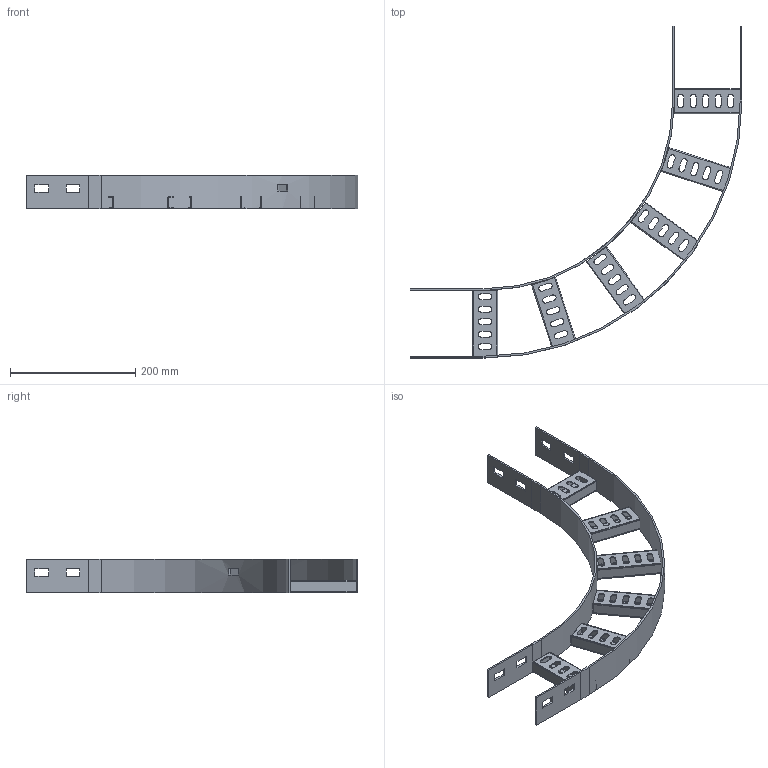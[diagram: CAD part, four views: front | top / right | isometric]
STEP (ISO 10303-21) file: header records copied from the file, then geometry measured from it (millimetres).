
FILE_DESCRIPTION(/* description */ ('','CAx-IF Rec.Pracs.---Representation and Presentation of Product Manufacturing Information (PMI)---4.0---2014-10-13'),/* implementation_level */ '2;1');
FILE_NAME(/* name */ 'Eurostrut_EFB60-100-90-300_Bend 90 for Cable Ladder ECL.step',/* time_stamp */ '2026-09-03T08:36:38+02:00',/* author */ (''),/* organization */ (''),/* preprocessor_version */ 'ST-DEVELOPER v20.1',/* originating_system */ 'Autodesk Revit 2027 27.2.0.39',/* authorisation */ '');
FILE_SCHEMA (('AP242_MANAGED_MODEL_BASED_3D_ENGINEERING_MIM_LF { 1 0 10303 442 2 1 4 }'));
Length unit declared in the file: millimetre
Products named in the file (6): TopLevelAssembly; Sweep; Extrusion; Extrusion_1; Eurostrut_Cable Ladder_Rung_Horizontal Bend_With slots; Eurostrut_Cable Ladder_Accessory End_54-94-142
Assembly tree (8 placements, depth 2):
  TopLevelAssembly
    Sweep
    Extrusion
    Extrusion_1
    Eurostrut_Cable Ladder_Rung_Horizontal Bend_With slots
    Eurostrut_Cable Ladder_Accessory End_54-94-142  x4
Bounding box: 531 x 531 x 54 mm (x, y, z)
Volume: 328494.7 mm3; surface area: 291540.6 mm2
Topology: 16 solids, 16 shells, 328 faces, 888 edges, 592 vertices
Faces by surface type: plane 240, bspline 60, cylinder 28
Entity records: 10980 total; most frequent: CARTESIAN_POINT 3460, ORIENTED_EDGE 1560, DIRECTION 1444, EDGE_CURVE 780, LINE 596, VECTOR 596, VERTEX_POINT 520, AXIS2_PLACEMENT_3D 424
